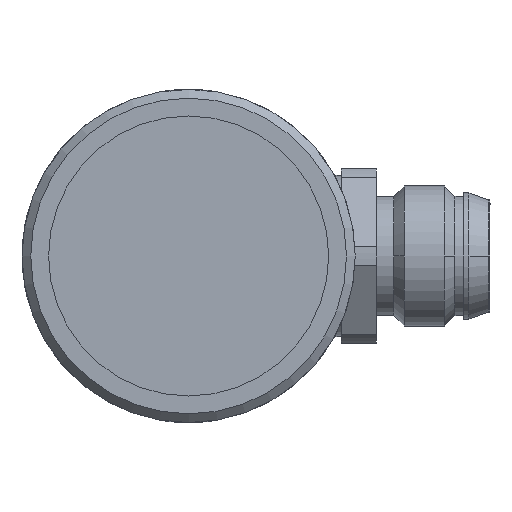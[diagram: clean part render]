
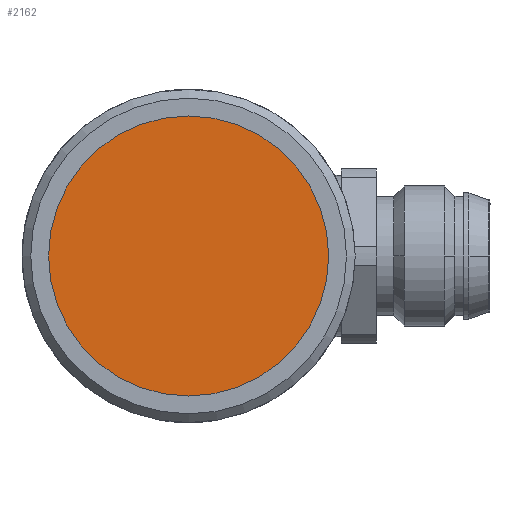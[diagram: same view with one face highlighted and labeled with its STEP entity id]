
A CAD part, left-side view. The second image highlights one B-rep face of the part: STEP entity #2162.
In plain terms, the highlighted planar face has unit normal (-1, 0, 0).
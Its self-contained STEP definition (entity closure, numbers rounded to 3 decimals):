
#322=PLANE('',#2298);
#699=VERTEX_POINT('',#2692);
#878=CIRCLE('',#2297,8.);
#1035=EDGE_CURVE('',#699,#699,#878,.T.);
#1329=ORIENTED_EDGE('',*,*,#1035,.T.);
#1875=EDGE_LOOP('',(#1329));
#2023=FACE_BOUND('',#1875,.T.);
#2162=ADVANCED_FACE('',(#2023),#322,.F.);
#2297=AXIS2_PLACEMENT_3D('',#2691,#3350,#3351);
#2298=AXIS2_PLACEMENT_3D('',#2693,#3352,$);
#2691=CARTESIAN_POINT('',(-25.,0.,0.));
#2692=CARTESIAN_POINT('',(-25.,0.,-8.));
#2693=CARTESIAN_POINT('',(-25.,0.,0.));
#3350=DIRECTION('',(-1.,0.,0.));
#3351=DIRECTION('',(0.,0.,-8.));
#3352=DIRECTION('',(1.,0.,0.));
